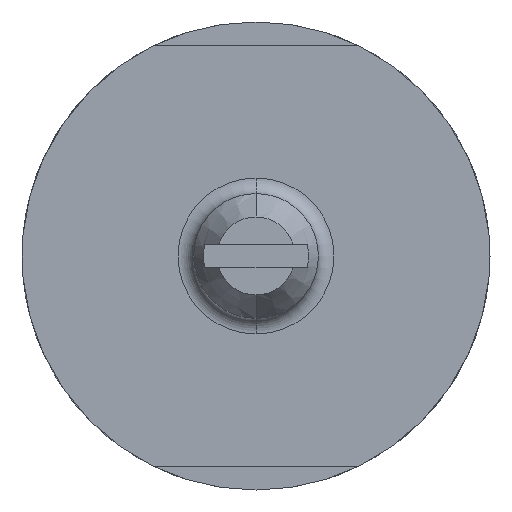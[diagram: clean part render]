
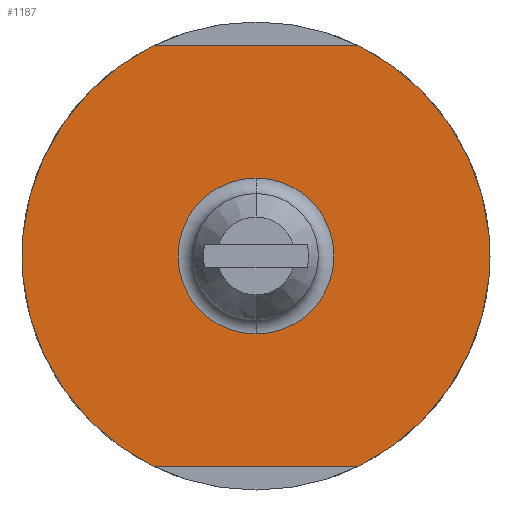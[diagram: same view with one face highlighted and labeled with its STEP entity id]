
A CAD part, front view. The second image highlights one B-rep face of the part: STEP entity #1187.
In plain terms, the highlighted planar face has unit normal (0, -1, 0).
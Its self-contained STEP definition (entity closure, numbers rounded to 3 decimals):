
#14 = CIRCLE ( 'NONE', #1150, 15. ) ;
#27 = AXIS2_PLACEMENT_3D ( 'NONE', #1136, #1122, #373 ) ;
#36 = VERTEX_POINT ( 'NONE', #523 ) ;
#44 = CARTESIAN_POINT ( 'NONE',  ( 0., 0., 13.5 ) ) ;
#46 = CIRCLE ( 'NONE', #27, 15. ) ;
#49 = ORIENTED_EDGE ( 'NONE', *, *, #347, .T. ) ;
#83 = VERTEX_POINT ( 'NONE', #415 ) ;
#84 = VERTEX_POINT ( 'NONE', #541 ) ;
#102 = EDGE_CURVE ( 'NONE', #83, #36, #46, .T. ) ;
#105 = EDGE_LOOP ( 'NONE', ( #1487, #1069 ) ) ;
#127 = AXIS2_PLACEMENT_3D ( 'NONE', #1426, #718, #1541 ) ;
#207 = VERTEX_POINT ( 'NONE', #1464 ) ;
#233 = DIRECTION ( 'NONE',  ( 0., -1., 0. ) ) ;
#248 = CARTESIAN_POINT ( 'NONE',  ( 0., 0., -5. ) ) ;
#250 = EDGE_LOOP ( 'NONE', ( #1341, #404, #1469, #49 ) ) ;
#279 = DIRECTION ( 'NONE',  ( -1., 0., 0. ) ) ;
#343 = DIRECTION ( 'NONE',  ( 0., -1., 0. ) ) ;
#347 = EDGE_CURVE ( 'NONE', #515, #207, #14, .T. ) ;
#356 = PLANE ( 'NONE',  #1495 ) ;
#363 = DIRECTION ( 'NONE',  ( 0., -1., 0. ) ) ;
#373 = DIRECTION ( 'NONE',  ( 0., 0., -1. ) ) ;
#400 = EDGE_CURVE ( 'NONE', #84, #954, #917, .T. ) ;
#404 = ORIENTED_EDGE ( 'NONE', *, *, #102, .T. ) ;
#415 = CARTESIAN_POINT ( 'NONE',  ( 6.538, 0., -13.5 ) ) ;
#478 = FACE_OUTER_BOUND ( 'NONE', #250, .T. ) ;
#479 = CARTESIAN_POINT ( 'NONE',  ( 0., 0., 0. ) ) ;
#515 = VERTEX_POINT ( 'NONE', #900 ) ;
#523 = CARTESIAN_POINT ( 'NONE',  ( 6.538, 0., 13.5 ) ) ;
#541 = CARTESIAN_POINT ( 'NONE',  ( 0., 0., 5. ) ) ;
#604 = EDGE_CURVE ( 'NONE', #515, #36, #657, .T. ) ;
#657 = LINE ( 'NONE', #44, #931 ) ;
#718 = DIRECTION ( 'NONE',  ( 0., -1., 0. ) ) ;
#849 = FACE_BOUND ( 'NONE', #105, .T. ) ;
#869 = EDGE_CURVE ( 'NONE', #83, #207, #1312, .T. ) ;
#900 = CARTESIAN_POINT ( 'NONE',  ( -6.538, 0., 13.5 ) ) ;
#903 = DIRECTION ( 'NONE',  ( 1., 0., 0. ) ) ;
#917 = CIRCLE ( 'NONE', #127, 5. ) ;
#931 = VECTOR ( 'NONE', #903, 1000. ) ;
#953 = VECTOR ( 'NONE', #279, 1000. ) ;
#954 = VERTEX_POINT ( 'NONE', #248 ) ;
#1020 = CARTESIAN_POINT ( 'NONE',  ( 0., 0., -13.5 ) ) ;
#1069 = ORIENTED_EDGE ( 'NONE', *, *, #400, .F. ) ;
#1089 = CARTESIAN_POINT ( 'NONE',  ( 0., 0., 0. ) ) ;
#1110 = CARTESIAN_POINT ( 'NONE',  ( 0., 0., 0. ) ) ;
#1122 = DIRECTION ( 'NONE',  ( 0., -1., 0. ) ) ;
#1136 = CARTESIAN_POINT ( 'NONE',  ( 0., 0., 0. ) ) ;
#1150 = AXIS2_PLACEMENT_3D ( 'NONE', #1089, #343, #1208 ) ;
#1187 = ADVANCED_FACE ( 'NONE', ( #478, #849 ), #356, .T. ) ;
#1194 = EDGE_CURVE ( 'NONE', #954, #84, #1449, .T. ) ;
#1208 = DIRECTION ( 'NONE',  ( 0., 0., -1. ) ) ;
#1225 = DIRECTION ( 'NONE',  ( 0., 0., -1. ) ) ;
#1312 = LINE ( 'NONE', #1020, #953 ) ;
#1341 = ORIENTED_EDGE ( 'NONE', *, *, #869, .F. ) ;
#1410 = AXIS2_PLACEMENT_3D ( 'NONE', #1110, #363, #1225 ) ;
#1426 = CARTESIAN_POINT ( 'NONE',  ( 0., 0., 0. ) ) ;
#1449 = CIRCLE ( 'NONE', #1410, 5. ) ;
#1451 = DIRECTION ( 'NONE',  ( 0., 0., -1. ) ) ;
#1464 = CARTESIAN_POINT ( 'NONE',  ( -6.538, 0., -13.5 ) ) ;
#1469 = ORIENTED_EDGE ( 'NONE', *, *, #604, .F. ) ;
#1487 = ORIENTED_EDGE ( 'NONE', *, *, #1194, .F. ) ;
#1495 = AXIS2_PLACEMENT_3D ( 'NONE', #479, #233, #1451 ) ;
#1541 = DIRECTION ( 'NONE',  ( 0., 0., -1. ) ) ;
